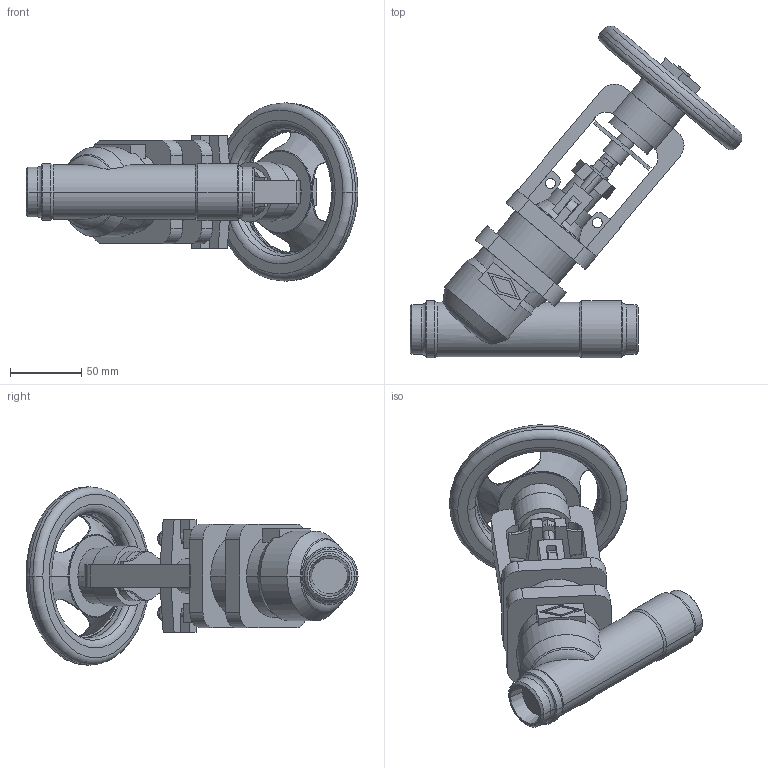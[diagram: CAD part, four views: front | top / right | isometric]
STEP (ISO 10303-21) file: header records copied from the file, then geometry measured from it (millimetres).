
FILE_DESCRIPTION(('OneSpaceDesigner STEP Export'),'2;1');
FILE_NAME('c000004348.stp','2010-05-10T10:56:34',(''),(''),'OneSpace Designer STEP processor for AP214 (Solid Model)','OneSpace Modeling 15.50B 03-Nov-2007 (C) CoCreate Software GmbH','');
FILE_SCHEMA(('AUTOMOTIVE_DESIGN { 1 0 10303 214 1 1 1 1 }'));
Length unit declared in the file: millimetre
Products named in the file (1): 1
Bounding box: 232.91 x 232.97 x 125 mm (x, y, z)
Volume: 718228.9 mm3; surface area: 118921.9 mm2
Topology: 1 solids, 1 shells, 292 faces, 770 edges, 497 vertices
Faces by surface type: plane 136, cylinder 93, torus 32, cone 31
Entity records: 11438 total; most frequent: CARTESIAN_POINT 2271, ORIENTED_EDGE 1540, DIRECTION 1276, EDGE_CURVE 770, VERTEX_POINT 497, AXIS2_PLACEMENT_3D 430, VECTOR 416, LINE 416
